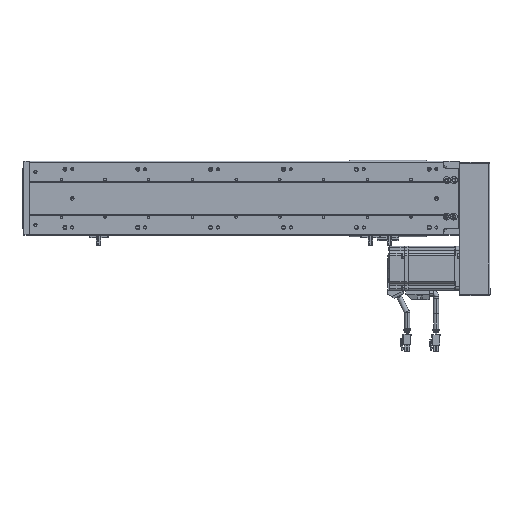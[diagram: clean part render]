
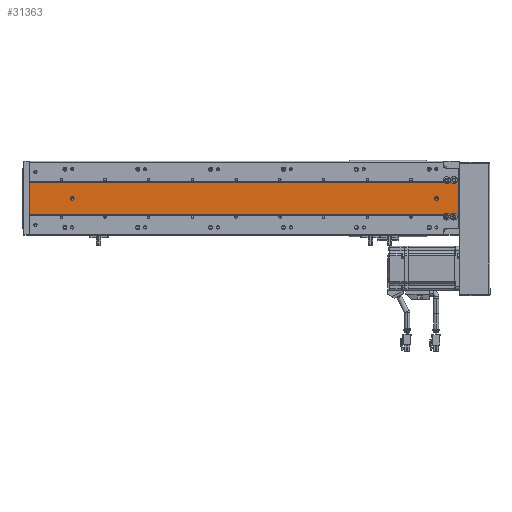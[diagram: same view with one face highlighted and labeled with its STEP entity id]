
A CAD part, front view. The second image highlights one B-rep face of the part: STEP entity #31363.
In plain terms, the highlighted planar face has unit normal (0, -1, 0).
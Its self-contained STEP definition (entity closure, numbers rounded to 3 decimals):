
#442 = DIRECTION ( 'NONE',  ( 0., 0., -1. ) ) ;
#473 = CARTESIAN_POINT ( 'NONE',  ( 118.817, 89.548, 589. ) ) ;
#3376 = LINE ( 'NONE', #473, #3470 ) ;
#3470 = VECTOR ( 'NONE', #442, 1000. ) ;
#6662 = CARTESIAN_POINT ( 'NONE',  ( 118.817, 89.548, 0. ) ) ;
#6777 = CARTESIAN_POINT ( 'NONE',  ( 161.989, 89.548, 0. ) ) ;
#6785 = CARTESIAN_POINT ( 'NONE',  ( 118.817, 89.548, 589. ) ) ;
#6791 = CARTESIAN_POINT ( 'NONE',  ( 161.989, 89.548, 589. ) ) ;
#6802 = CARTESIAN_POINT ( 'NONE',  ( 118.817, 89.548, 579.698 ) ) ;
#6830 = CARTESIAN_POINT ( 'NONE',  ( 118.817, 89.548, 576.302 ) ) ;
#6950 = CARTESIAN_POINT ( 'NONE',  ( 118.817, 89.548, 569.698 ) ) ;
#7424 = CARTESIAN_POINT ( 'NONE',  ( 118.817, 89.548, 586.302 ) ) ;
#13911 = CARTESIAN_POINT ( 'NONE',  ( 161.989, 89.548, 589. ) ) ;
#13915 = DIRECTION ( 'NONE',  ( 1., 0., 0. ) ) ;
#15973 = VECTOR ( 'NONE', #21880, 1000. ) ;
#15987 = VECTOR ( 'NONE', #21773, 1000. ) ;
#15995 = LINE ( 'NONE', #21789, #15987 ) ;
#16011 = LINE ( 'NONE', #21879, #15973 ) ;
#16026 = LINE ( 'NONE', #21857, #16028 ) ;
#16028 = VECTOR ( 'NONE', #21826, 1000. ) ;
#16120 = VECTOR ( 'NONE', #13915, 1000. ) ;
#16149 = LINE ( 'NONE', #13911, #16120 ) ;
#17047 = VERTEX_POINT ( 'NONE', #6662 ) ;
#17062 = VERTEX_POINT ( 'NONE', #6802 ) ;
#17066 = VERTEX_POINT ( 'NONE', #6777 ) ;
#17069 = VERTEX_POINT ( 'NONE', #6785 ) ;
#17081 = VERTEX_POINT ( 'NONE', #6791 ) ;
#17086 = VERTEX_POINT ( 'NONE', #6830 ) ;
#17136 = VERTEX_POINT ( 'NONE', #6950 ) ;
#17540 = VERTEX_POINT ( 'NONE', #7424 ) ;
#19924 = ORIENTED_EDGE ( 'NONE', *, *, #62050, .T. ) ;
#19925 = ORIENTED_EDGE ( 'NONE', *, *, #68825, .F. ) ;
#19948 = ORIENTED_EDGE ( 'NONE', *, *, #68874, .T. ) ;
#19954 = ORIENTED_EDGE ( 'NONE', *, *, #62217, .F. ) ;
#19955 = ORIENTED_EDGE ( 'NONE', *, *, #62335, .T. ) ;
#19964 = ORIENTED_EDGE ( 'NONE', *, *, #62325, .F. ) ;
#19965 = ORIENTED_EDGE ( 'NONE', *, *, #68821, .T. ) ;
#19969 = ORIENTED_EDGE ( 'NONE', *, *, #68916, .T. ) ;
#19972 = ORIENTED_EDGE ( 'NONE', *, *, #62398, .F. ) ;
#19975 = ORIENTED_EDGE ( 'NONE', *, *, #62232, .F. ) ;
#19976 = ORIENTED_EDGE ( 'NONE', *, *, #69065, .T. ) ;
#19978 = ORIENTED_EDGE ( 'NONE', *, *, #68824, .F. ) ;
#19982 = ORIENTED_EDGE ( 'NONE', *, *, #68016, .T. ) ;
#19992 = ORIENTED_EDGE ( 'NONE', *, *, #62111, .T. ) ;
#19996 = ORIENTED_EDGE ( 'NONE', *, *, #62315, .F. ) ;
#19998 = ORIENTED_EDGE ( 'NONE', *, *, #68957, .F. ) ;
#21287 = CARTESIAN_POINT ( 'NONE',  ( 140.403, 89.548, 559. ) ) ;
#21290 = DIRECTION ( 'NONE',  ( 0., -1., 0. ) ) ;
#21297 = DIRECTION ( 'NONE',  ( 1., 0., 0. ) ) ;
#21505 = DIRECTION ( 'NONE',  ( 1., 0., 0. ) ) ;
#21532 = DIRECTION ( 'NONE',  ( 0., -1., 0. ) ) ;
#21541 = CARTESIAN_POINT ( 'NONE',  ( 140.403, 89.548, 59. ) ) ;
#21773 = DIRECTION ( 'NONE',  ( 0., 0., -1. ) ) ;
#21789 = CARTESIAN_POINT ( 'NONE',  ( 161.989, 89.548, 589. ) ) ;
#21826 = DIRECTION ( 'NONE',  ( 0., 0., -1. ) ) ;
#21857 = CARTESIAN_POINT ( 'NONE',  ( 161.989, 89.548, 589. ) ) ;
#21879 = CARTESIAN_POINT ( 'NONE',  ( 118.817, 89.548, 589. ) ) ;
#21880 = DIRECTION ( 'NONE',  ( 0., 0., -1. ) ) ;
#22052 = DIRECTION ( 'NONE',  ( 0., 1., 0. ) ) ;
#22054 = CARTESIAN_POINT ( 'NONE',  ( 165.403, 89.548, 573. ) ) ;
#22072 = DIRECTION ( 'NONE',  ( -1., 0., 0. ) ) ;
#24985 = DIRECTION ( 'NONE',  ( -1., 0., 0. ) ) ;
#24994 = CARTESIAN_POINT ( 'NONE',  ( 165.403, 89.548, 583. ) ) ;
#24999 = DIRECTION ( 'NONE',  ( 0., 1., 0. ) ) ;
#26805 = DIRECTION ( 'NONE',  ( 0., -1., 0. ) ) ;
#26834 = CARTESIAN_POINT ( 'NONE',  ( 140.403, 89.548, 559. ) ) ;
#26861 = DIRECTION ( 'NONE',  ( 1., 0., 0. ) ) ;
#27348 = DIRECTION ( 'NONE',  ( 0., 0., -1. ) ) ;
#27366 = DIRECTION ( 'NONE',  ( 0., -1., 0. ) ) ;
#27377 = CARTESIAN_POINT ( 'NONE',  ( 161.989, 89.548, 0. ) ) ;
#27378 = CARTESIAN_POINT ( 'NONE',  ( 161.989, 89.548, 589. ) ) ;
#27379 = DIRECTION ( 'NONE',  ( 1., 0., 0. ) ) ;
#27380 = CARTESIAN_POINT ( 'NONE',  ( 140.403, 89.548, 59. ) ) ;
#27391 = DIRECTION ( 'NONE',  ( 1., 0., 0. ) ) ;
#27436 = CARTESIAN_POINT ( 'NONE',  ( 115.403, 89.548, 573. ) ) ;
#27451 = DIRECTION ( 'NONE',  ( -1., 0., 0. ) ) ;
#27465 = DIRECTION ( 'NONE',  ( 0., 1., 0. ) ) ;
#27478 = CARTESIAN_POINT ( 'NONE',  ( 115.403, 89.548, 583. ) ) ;
#27511 = DIRECTION ( 'NONE',  ( 0., 1., 0. ) ) ;
#27512 = DIRECTION ( 'NONE',  ( -1., 0., 0. ) ) ;
#31363 = ADVANCED_FACE ( 'NONE', ( #63840, #63836, #63838 ), #59631, .F. ) ;
#48792 = VERTEX_POINT ( 'NONE', #60452 ) ;
#48827 = VERTEX_POINT ( 'NONE', #60447 ) ;
#48883 = VERTEX_POINT ( 'NONE', #60516 ) ;
#48889 = VERTEX_POINT ( 'NONE', #60521 ) ;
#49061 = VERTEX_POINT ( 'NONE', #60040 ) ;
#49080 = VERTEX_POINT ( 'NONE', #59980 ) ;
#49117 = VERTEX_POINT ( 'NONE', #60028 ) ;
#49123 = VERTEX_POINT ( 'NONE', #58956 ) ;
#57819 = CIRCLE ( 'NONE', #77634, 2.5 ) ;
#57863 = CIRCLE ( 'NONE', #77657, 2.5 ) ;
#58296 = CIRCLE ( 'NONE', #77603, 4.75 ) ;
#58348 = CIRCLE ( 'NONE', #77581, 4.75 ) ;
#58956 = CARTESIAN_POINT ( 'NONE',  ( 137.903, 89.548, 559. ) ) ;
#59609 = CARTESIAN_POINT ( 'NONE',  ( 161.989, 89.548, 589. ) ) ;
#59617 = DIRECTION ( 'NONE',  ( -1., 0., 0. ) ) ;
#59625 = DIRECTION ( 'NONE',  ( 0., 1., 0. ) ) ;
#59631 = PLANE ( 'NONE',  #102675 ) ;
#59980 = CARTESIAN_POINT ( 'NONE',  ( 137.903, 89.548, 59. ) ) ;
#60028 = CARTESIAN_POINT ( 'NONE',  ( 142.903, 89.548, 59. ) ) ;
#60040 = CARTESIAN_POINT ( 'NONE',  ( 142.903, 89.548, 559. ) ) ;
#60447 = CARTESIAN_POINT ( 'NONE',  ( 161.989, 89.548, 579.698 ) ) ;
#60452 = CARTESIAN_POINT ( 'NONE',  ( 161.989, 89.548, 586.302 ) ) ;
#60516 = CARTESIAN_POINT ( 'NONE',  ( 161.989, 89.548, 576.302 ) ) ;
#60521 = CARTESIAN_POINT ( 'NONE',  ( 161.989, 89.548, 569.698 ) ) ;
#62050 = EDGE_CURVE ( 'NONE', #48827, #48792, #58296, .T. ) ;
#62111 = EDGE_CURVE ( 'NONE', #48889, #48883, #58348, .T. ) ;
#62217 = EDGE_CURVE ( 'NONE', #49123, #49061, #57819, .T. ) ;
#62232 = EDGE_CURVE ( 'NONE', #49080, #49117, #57863, .T. ) ;
#62315 = EDGE_CURVE ( 'NONE', #48827, #48883, #15995, .T. ) ;
#62325 = EDGE_CURVE ( 'NONE', #48889, #17066, #16026, .T. ) ;
#62335 = EDGE_CURVE ( 'NONE', #17136, #17047, #16011, .T. ) ;
#62398 = EDGE_CURVE ( 'NONE', #17069, #17081, #16149, .T. ) ;
#63836 = FACE_BOUND ( 'NONE', #89832, .T. ) ;
#63838 = FACE_OUTER_BOUND ( 'NONE', #89830, .T. ) ;
#63840 = FACE_BOUND ( 'NONE', #89845, .T. ) ;
#68016 = EDGE_CURVE ( 'NONE', #17062, #17086, #3376, .T. ) ;
#68821 = EDGE_CURVE ( 'NONE', #17047, #17066, #96767, .T. ) ;
#68824 = EDGE_CURVE ( 'NONE', #17081, #48792, #96737, .T. ) ;
#68825 = EDGE_CURVE ( 'NONE', #49117, #49080, #96689, .T. ) ;
#68874 = EDGE_CURVE ( 'NONE', #17086, #17136, #95826, .T. ) ;
#68916 = EDGE_CURVE ( 'NONE', #17540, #17062, #95750, .T. ) ;
#68957 = EDGE_CURVE ( 'NONE', #49061, #49123, #96855, .T. ) ;
#69065 = EDGE_CURVE ( 'NONE', #17069, #17540, #100733, .T. ) ;
#77581 = AXIS2_PLACEMENT_3D ( 'NONE', #22054, #22052, #22072 ) ;
#77603 = AXIS2_PLACEMENT_3D ( 'NONE', #24994, #24999, #24985 ) ;
#77634 = AXIS2_PLACEMENT_3D ( 'NONE', #21287, #21290, #21297 ) ;
#77657 = AXIS2_PLACEMENT_3D ( 'NONE', #21541, #21532, #21505 ) ;
#78138 = AXIS2_PLACEMENT_3D ( 'NONE', #27436, #27465, #27451 ) ;
#78156 = AXIS2_PLACEMENT_3D ( 'NONE', #27478, #27511, #27512 ) ;
#78253 = AXIS2_PLACEMENT_3D ( 'NONE', #27380, #27366, #27391 ) ;
#78257 = AXIS2_PLACEMENT_3D ( 'NONE', #26834, #26805, #26861 ) ;
#89830 = EDGE_LOOP ( 'NONE', ( #19996, #19924, #19978, #19972, #19976, #19969, #19982, #19948, #19955, #19965, #19964, #19992 ) ) ;
#89832 = EDGE_LOOP ( 'NONE', ( #19925, #19975 ) ) ;
#89845 = EDGE_LOOP ( 'NONE', ( #19998, #19954 ) ) ;
#95750 = CIRCLE ( 'NONE', #78156, 4.75 ) ;
#95826 = CIRCLE ( 'NONE', #78138, 4.75 ) ;
#96682 = VECTOR ( 'NONE', #27348, 1000. ) ;
#96689 = CIRCLE ( 'NONE', #78253, 2.5 ) ;
#96737 = LINE ( 'NONE', #27378, #96682 ) ;
#96763 = VECTOR ( 'NONE', #27379, 1000. ) ;
#96767 = LINE ( 'NONE', #27377, #96763 ) ;
#96855 = CIRCLE ( 'NONE', #78257, 2.5 ) ;
#99351 = CARTESIAN_POINT ( 'NONE',  ( 118.817, 89.548, 589. ) ) ;
#99357 = DIRECTION ( 'NONE',  ( 0., 0., -1. ) ) ;
#100674 = VECTOR ( 'NONE', #99357, 1000. ) ;
#100733 = LINE ( 'NONE', #99351, #100674 ) ;
#102675 = AXIS2_PLACEMENT_3D ( 'NONE', #59609, #59625, #59617 ) ;
